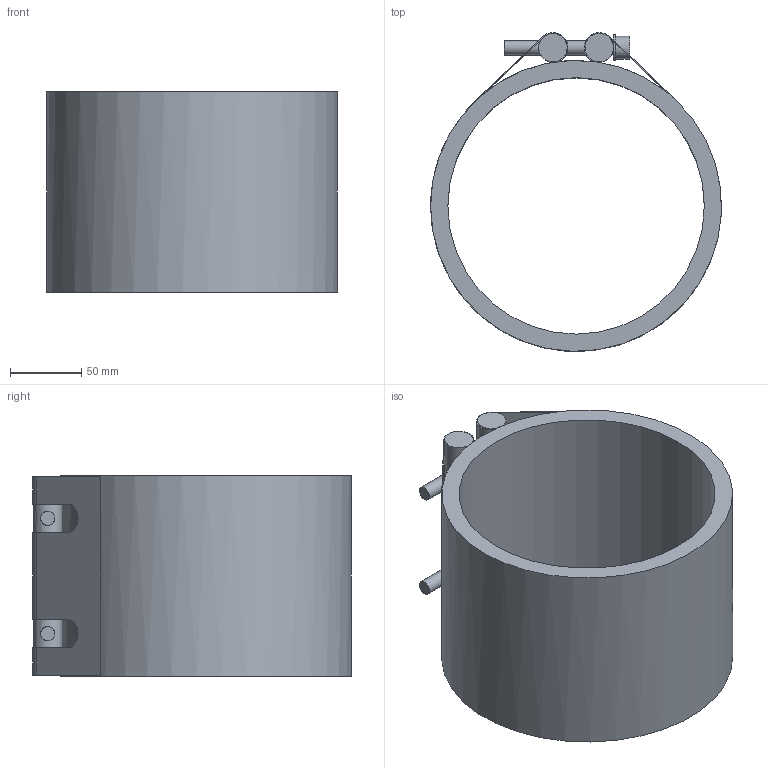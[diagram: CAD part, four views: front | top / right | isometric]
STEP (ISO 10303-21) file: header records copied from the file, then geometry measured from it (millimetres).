
FILE_DESCRIPTION(/* description */ (''),/* implementation_level */ '2;1');
FILE_NAME(/* name */ 'C:\Users\BR_11K\Desktop\STRAUB PLAST-GRIP 180.0.stp',/* time_stamp */ '2016-05-09T08:26:56+02:00',/* author */ ('BR_11K'),/* organization */ (''),/* preprocessor_version */ 'ST-DEVELOPER v16.1',/* originating_system */ 'Autodesk Inventor 2016',/* authorisation */ '');
FILE_SCHEMA (('AUTOMOTIVE_DESIGN { 1 0 10303 214 3 1 1 }'));
Length unit declared in the file: millimetre
Products named in the file (1): STRAUB PLAST-GRIP 180.0
Bounding box: 204.07 x 223.67 x 141 mm (x, y, z)
Volume: 1139652.4 mm3; surface area: 231475.3 mm2
Topology: 1 solids, 1 shells, 88 faces, 254 edges, 163 vertices
Faces by surface type: plane 56, cylinder 30, torus 2
Full cylindrical faces by diameter (mm): 10 x4, 16 x2, 18 x2, 20 x2, 180 x1, 204.2 x1
Entity records: 3052 total; most frequent: CARTESIAN_POINT 739, DIRECTION 476, ORIENTED_EDGE 460, EDGE_CURVE 226, AXIS2_PLACEMENT_3D 171, VERTEX_POINT 156, LINE 134, VECTOR 134
